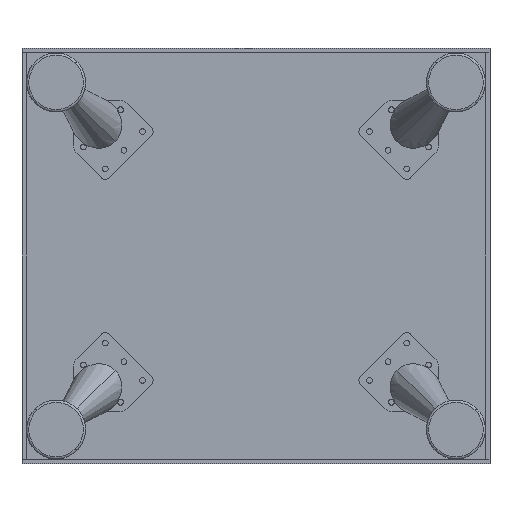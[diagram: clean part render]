
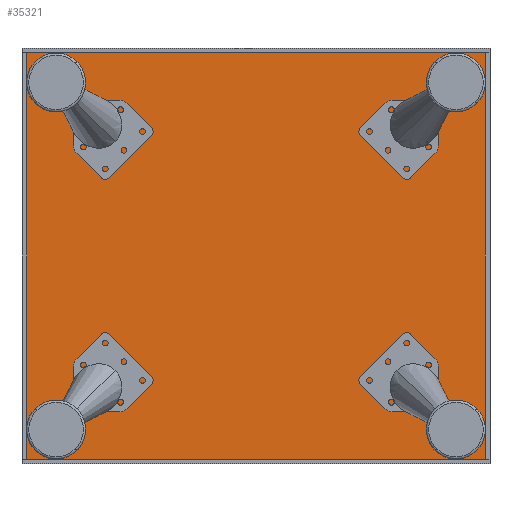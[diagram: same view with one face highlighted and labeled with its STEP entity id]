
A CAD part, front view. The second image highlights one B-rep face of the part: STEP entity #35321.
In plain terms, the highlighted planar face has unit normal (0, -1, 0) as drawn and (0, 0, 1) by its records, which use the part's own axes.
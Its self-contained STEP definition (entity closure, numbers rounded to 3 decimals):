
#6598 = VECTOR ( 'NONE', #42019, 1000. ) ;
#6708 = CARTESIAN_POINT ( 'NONE',  ( 200., 179., 10. ) ) ;
#6824 = ORIENTED_EDGE ( 'NONE', *, *, #21226, .T. ) ;
#8399 = CARTESIAN_POINT ( 'NONE',  ( -200., -175., 10. ) ) ;
#11205 = EDGE_CURVE ( 'NONE', #53733, #45411, #58341, .T. ) ;
#11640 = DIRECTION ( 'NONE',  ( 0., 0., -1. ) ) ;
#12328 = CARTESIAN_POINT ( 'NONE',  ( -200., 179., 10. ) ) ;
#16739 = ORIENTED_EDGE ( 'NONE', *, *, #46962, .T. ) ;
#16746 = DIRECTION ( 'NONE',  ( -1., 0., 0. ) ) ;
#17889 = VECTOR ( 'NONE', #59867, 1000. ) ;
#17985 = EDGE_CURVE ( 'NONE', #45411, #20420, #18460, .T. ) ;
#18040 = VECTOR ( 'NONE', #45788, 1000. ) ;
#18460 = LINE ( 'NONE', #6708, #6598 ) ;
#20420 = VERTEX_POINT ( 'NONE', #47241 ) ;
#21226 = EDGE_CURVE ( 'NONE', #21565, #53733, #32514, .T. ) ;
#21565 = VERTEX_POINT ( 'NONE', #12328 ) ;
#21820 = PLANE ( 'NONE',  #45247 ) ;
#22089 = ORIENTED_EDGE ( 'NONE', *, *, #17985, .T. ) ;
#32514 = LINE ( 'NONE', #8399, #44363 ) ;
#32611 = CARTESIAN_POINT ( 'NONE',  ( 0., 0., 10. ) ) ;
#34197 = CARTESIAN_POINT ( 'NONE',  ( -200., 179., 10. ) ) ;
#35046 = EDGE_LOOP ( 'NONE', ( #6824, #44607, #22089, #16739 ) ) ;
#35321 = ADVANCED_FACE ( 'NONE', ( #49275 ), #21820, .F. ) ;
#37977 = DIRECTION ( 'NONE',  ( 0., -1., 0. ) ) ;
#40590 = CARTESIAN_POINT ( 'NONE',  ( 200., -175., 10. ) ) ;
#42019 = DIRECTION ( 'NONE',  ( 0., 1., 0. ) ) ;
#44363 = VECTOR ( 'NONE', #37977, 1000. ) ;
#44607 = ORIENTED_EDGE ( 'NONE', *, *, #11205, .T. ) ;
#45247 = AXIS2_PLACEMENT_3D ( 'NONE', #32611, #11640, #16746 ) ;
#45411 = VERTEX_POINT ( 'NONE', #40590 ) ;
#45788 = DIRECTION ( 'NONE',  ( 1., 0., 0. ) ) ;
#46962 = EDGE_CURVE ( 'NONE', #20420, #21565, #56604, .T. ) ;
#47241 = CARTESIAN_POINT ( 'NONE',  ( 200., 179., 10. ) ) ;
#49275 = FACE_OUTER_BOUND ( 'NONE', #35046, .T. ) ;
#53733 = VERTEX_POINT ( 'NONE', #61535 ) ;
#55501 = CARTESIAN_POINT ( 'NONE',  ( 200., -175., 10. ) ) ;
#56604 = LINE ( 'NONE', #34197, #17889 ) ;
#58341 = LINE ( 'NONE', #55501, #18040 ) ;
#59867 = DIRECTION ( 'NONE',  ( -1., 0., 0. ) ) ;
#61535 = CARTESIAN_POINT ( 'NONE',  ( -200., -175., 10. ) ) ;
